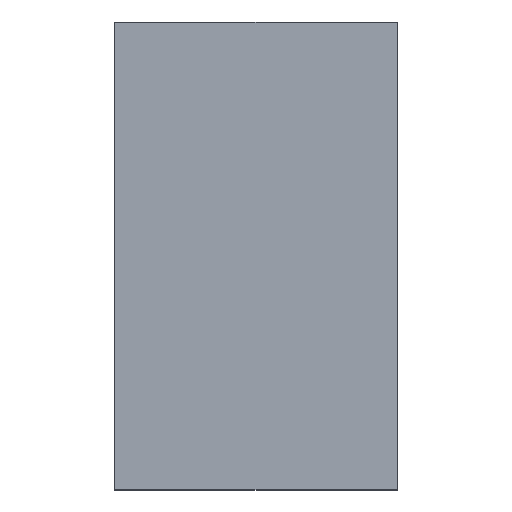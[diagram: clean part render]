
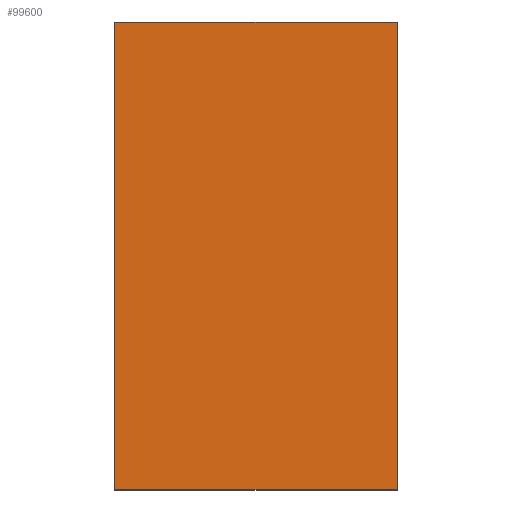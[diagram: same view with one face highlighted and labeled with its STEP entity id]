
A CAD part, top view. The second image highlights one B-rep face of the part: STEP entity #99600.
In plain terms, the highlighted planar face has unit normal (0, 0, 1).
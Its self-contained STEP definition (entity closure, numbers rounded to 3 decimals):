
#1019=DIRECTION('',(0.,-1.,0.));
#1020=VECTOR('',#1019,75.5);
#1021=CARTESIAN_POINT('',(22.5,13.,0.));
#1022=LINE('',#1021,#1020);
#1023=DIRECTION('',(-1.,0.,0.));
#1024=VECTOR('',#1023,45.5);
#1025=CARTESIAN_POINT('',(22.5,-62.5,0.));
#1026=LINE('',#1025,#1024);
#1027=DIRECTION('',(0.,1.,0.));
#1028=VECTOR('',#1027,75.5);
#1029=CARTESIAN_POINT('',(-23.,-62.5,0.));
#1030=LINE('',#1029,#1028);
#1031=DIRECTION('',(1.,0.,0.));
#1032=VECTOR('',#1031,45.5);
#1033=CARTESIAN_POINT('',(-23.,13.,0.));
#1034=LINE('',#1033,#1032);
#76068=CARTESIAN_POINT('',(22.5,13.,0.));
#76069=CARTESIAN_POINT('',(22.5,-62.5,0.));
#76070=VERTEX_POINT('',#76068);
#76071=VERTEX_POINT('',#76069);
#76072=CARTESIAN_POINT('',(-23.,-62.5,0.));
#76073=VERTEX_POINT('',#76072);
#76074=CARTESIAN_POINT('',(-23.,13.,0.));
#76075=VERTEX_POINT('',#76074);
#99589=CARTESIAN_POINT('',(0.,0.,0.));
#99590=DIRECTION('',(0.,0.,-1.));
#99591=DIRECTION('',(0.,-1.,0.));
#99592=AXIS2_PLACEMENT_3D('',#99589,#99590,#99591);
#99593=PLANE('',#99592);
#99594=ORIENTED_EDGE('',*,*,#99513,.T.);
#99595=ORIENTED_EDGE('',*,*,#99535,.T.);
#99596=ORIENTED_EDGE('',*,*,#99556,.T.);
#99597=ORIENTED_EDGE('',*,*,#99576,.T.);
#99598=EDGE_LOOP('',(#99594,#99595,#99596,#99597));
#99599=FACE_OUTER_BOUND('',#99598,.F.);
#99513=EDGE_CURVE('',#76070,#76071,#1022,.T.);
#99535=EDGE_CURVE('',#76071,#76073,#1026,.T.);
#99556=EDGE_CURVE('',#76073,#76075,#1030,.T.);
#99576=EDGE_CURVE('',#76075,#76070,#1034,.T.);
#99600=ADVANCED_FACE('',(#99599),#99593,.F.);
